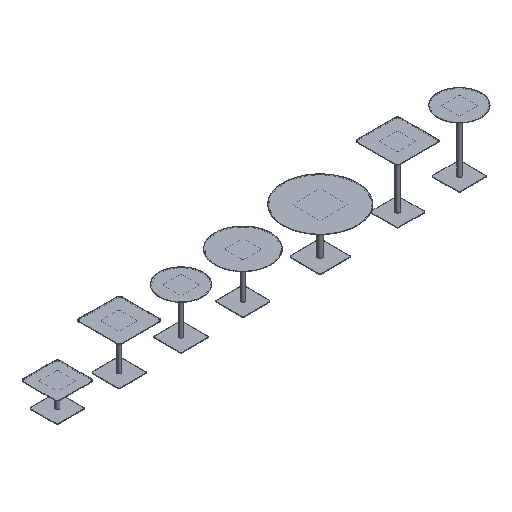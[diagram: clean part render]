
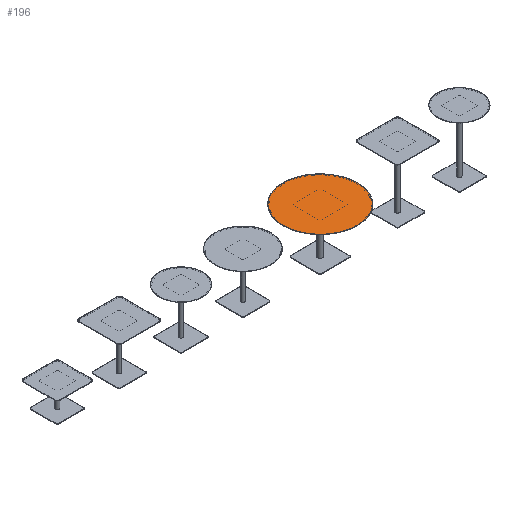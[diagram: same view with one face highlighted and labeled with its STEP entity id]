
A CAD part, isometric view. The second image highlights one B-rep face of the part: STEP entity #196.
In plain terms, the highlighted planar face has unit normal (0, 0, 1).
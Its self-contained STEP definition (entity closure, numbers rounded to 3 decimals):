
#196=ADVANCED_FACE('',(#448),#3567,.T.);
#448=FACE_OUTER_BOUND('',#700,.T.);
#700=EDGE_LOOP('',(#1196,#1197));
#1196=ORIENTED_EDGE('',*,*,#2147,.F.);
#1197=ORIENTED_EDGE('',*,*,#2143,.F.);
#2143=EDGE_CURVE('',#3195,#3198,#2671,.T.);
#2147=EDGE_CURVE('',#3198,#3195,#2675,.T.);
#2671=(
BOUNDED_CURVE()
B_SPLINE_CURVE(2,(#5979,#5980,#5981,#5982,#5983),.UNSPECIFIED.,.F.,.F.)
B_SPLINE_CURVE_WITH_KNOTS((3,2,3),(-3769.879,-2827.409,
-1884.939),.UNSPECIFIED.)
CURVE()
GEOMETRIC_REPRESENTATION_ITEM()
RATIONAL_B_SPLINE_CURVE((1.,0.707,1.,0.707,1.))
REPRESENTATION_ITEM('')
);
#2675=(
BOUNDED_CURVE()
B_SPLINE_CURVE(2,(#5999,#6000,#6001,#6002,#6003),.UNSPECIFIED.,.F.,.F.)
B_SPLINE_CURVE_WITH_KNOTS((3,2,3),(-1884.939,-942.47,
0.),.UNSPECIFIED.)
CURVE()
GEOMETRIC_REPRESENTATION_ITEM()
RATIONAL_B_SPLINE_CURVE((1.,0.707,1.,0.707,1.))
REPRESENTATION_ITEM('')
);
#3195=VERTEX_POINT('',#5964);
#3198=VERTEX_POINT('',#5967);
#3567=PLANE('',#3792);
#3792=AXIS2_PLACEMENT_3D('',#5911,#3993,$);
#3993=DIRECTION('',(0.,0.,1.));
#5911=CARTESIAN_POINT('',(3640.55,609.45,742.));
#5964=CARTESIAN_POINT('',(4847.5,0.,742.));
#5967=CARTESIAN_POINT('',(3652.5,0.,742.));
#5979=CARTESIAN_POINT('',(4847.5,0.,742.));
#5980=CARTESIAN_POINT('',(4847.5,-597.5,742.));
#5981=CARTESIAN_POINT('',(4250.,-597.5,742.));
#5982=CARTESIAN_POINT('',(3652.5,-597.5,742.));
#5983=CARTESIAN_POINT('',(3652.5,0.,742.));
#5999=CARTESIAN_POINT('',(3652.5,0.,742.));
#6000=CARTESIAN_POINT('',(3652.5,597.5,742.));
#6001=CARTESIAN_POINT('',(4250.,597.5,742.));
#6002=CARTESIAN_POINT('',(4847.5,597.5,742.));
#6003=CARTESIAN_POINT('',(4847.5,0.,742.));
